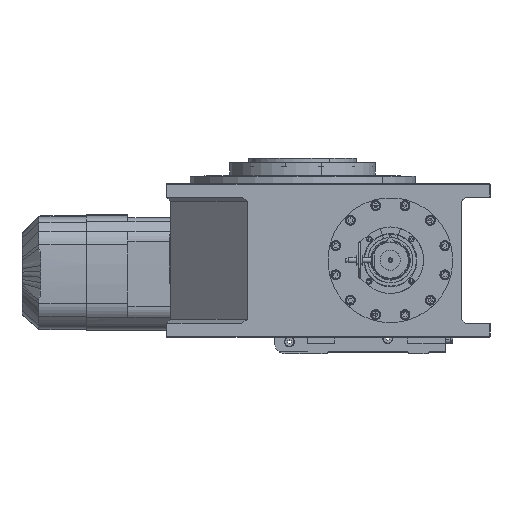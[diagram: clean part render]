
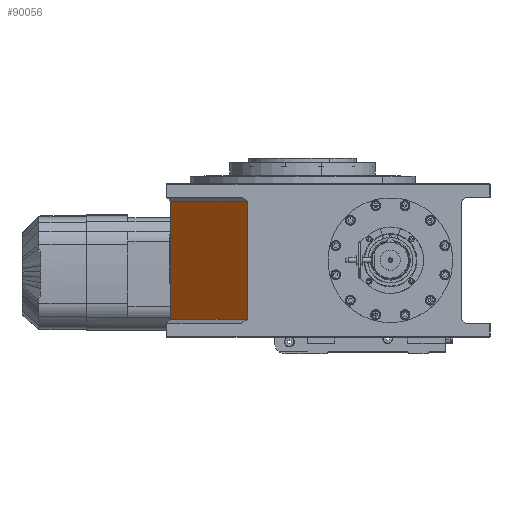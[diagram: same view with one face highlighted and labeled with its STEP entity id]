
A CAD part, top view. The second image highlights one B-rep face of the part: STEP entity #90056.
In plain terms, the highlighted planar face has unit normal (-0.707, 0, 0.707).
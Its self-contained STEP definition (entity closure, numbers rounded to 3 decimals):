
#1976 = VECTOR ( 'NONE', #34072, 1000. ) ;
#3589 = AXIS2_PLACEMENT_3D ( 'NONE', #7454, #59753, #73602 ) ;
#7454 = CARTESIAN_POINT ( 'NONE',  ( -83.259, 210., 199. ) ) ;
#11502 = ORIENTED_EDGE ( 'NONE', *, *, #55015, .T. ) ;
#12252 = CARTESIAN_POINT ( 'NONE',  ( -83.259, 26., 199. ) ) ;
#17501 = VECTOR ( 'NONE', #37943, 1000. ) ;
#18889 = LINE ( 'NONE', #12252, #1976 ) ;
#21023 = VERTEX_POINT ( 'NONE', #31713 ) ;
#22364 = EDGE_CURVE ( 'NONE', #31475, #77356, #23830, .T. ) ;
#23830 = LINE ( 'NONE', #31871, #26576 ) ;
#26576 = VECTOR ( 'NONE', #38066, 1000. ) ;
#26858 = ORIENTED_EDGE ( 'NONE', *, *, #22364, .T. ) ;
#27473 = EDGE_CURVE ( 'NONE', #21023, #42522, #65660, .T. ) ;
#27541 = ORIENTED_EDGE ( 'NONE', *, *, #27473, .F. ) ;
#31475 = VERTEX_POINT ( 'NONE', #59333 ) ;
#31713 = CARTESIAN_POINT ( 'NONE',  ( -83.259, 204., 199. ) ) ;
#31871 = CARTESIAN_POINT ( 'NONE',  ( -199., 210., 83.259 ) ) ;
#34072 = DIRECTION ( 'NONE',  ( 0.707, 0., 0.707 ) ) ;
#35228 = DIRECTION ( 'NONE',  ( 0., -1., 0. ) ) ;
#36617 = CARTESIAN_POINT ( 'NONE',  ( -83.259, 210., 199. ) ) ;
#36929 = CARTESIAN_POINT ( 'NONE',  ( -83.259, 26., 199. ) ) ;
#37943 = DIRECTION ( 'NONE',  ( -0.707, 0., -0.707 ) ) ;
#38066 = DIRECTION ( 'NONE',  ( 0., -1., 0. ) ) ;
#41257 = PLANE ( 'NONE',  #3589 ) ;
#42254 = EDGE_LOOP ( 'NONE', ( #27541, #11502, #26858, #67391 ) ) ;
#42522 = VERTEX_POINT ( 'NONE', #36929 ) ;
#45692 = CARTESIAN_POINT ( 'NONE',  ( -199., 26., 83.259 ) ) ;
#52227 = CARTESIAN_POINT ( 'NONE',  ( -199., 204., 83.259 ) ) ;
#55015 = EDGE_CURVE ( 'NONE', #21023, #31475, #59350, .T. ) ;
#59333 = CARTESIAN_POINT ( 'NONE',  ( -199., 204., 83.259 ) ) ;
#59350 = LINE ( 'NONE', #52227, #17501 ) ;
#59753 = DIRECTION ( 'NONE',  ( 0.707, 0., -0.707 ) ) ;
#64581 = FACE_OUTER_BOUND ( 'NONE', #42254, .T. ) ;
#65660 = LINE ( 'NONE', #36617, #81386 ) ;
#67391 = ORIENTED_EDGE ( 'NONE', *, *, #80699, .T. ) ;
#73602 = DIRECTION ( 'NONE',  ( -0.707, 0., -0.707 ) ) ;
#77356 = VERTEX_POINT ( 'NONE', #45692 ) ;
#80699 = EDGE_CURVE ( 'NONE', #77356, #42522, #18889, .T. ) ;
#81386 = VECTOR ( 'NONE', #35228, 1000. ) ;
#90056 = ADVANCED_FACE ( 'NONE', ( #64581 ), #41257, .F. ) ;
